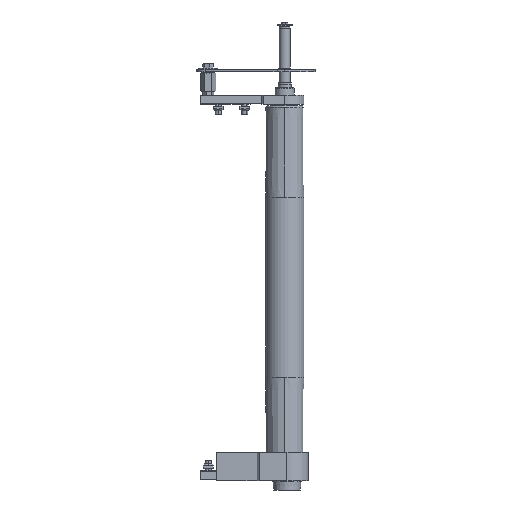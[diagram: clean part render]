
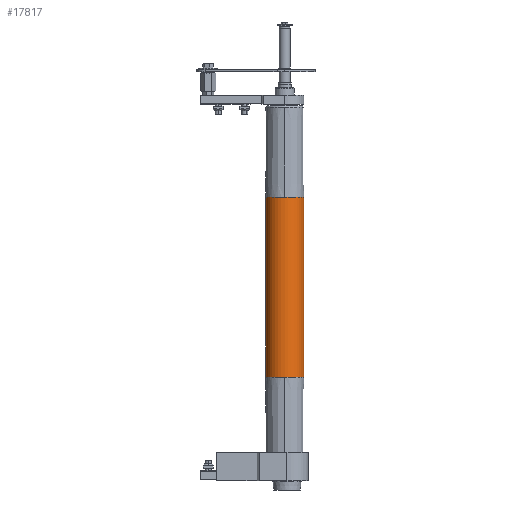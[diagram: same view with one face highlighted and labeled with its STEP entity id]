
A CAD part, front view. The second image highlights one B-rep face of the part: STEP entity #17817.
In plain terms, the highlighted cylindrical face has radius 25 mm (diameter 50 mm), a partial arc.
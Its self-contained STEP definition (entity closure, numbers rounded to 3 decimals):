
#347 = CARTESIAN_POINT ( 'NONE',  ( -117.5, 0., 25. ) ) ;
#635 = VERTEX_POINT ( 'NONE', #22756 ) ;
#726 = VERTEX_POINT ( 'NONE', #13256 ) ;
#984 = ORIENTED_EDGE ( 'NONE', *, *, #10598, .F. ) ;
#1115 = CIRCLE ( 'NONE', #20188, 25. ) ;
#1228 = EDGE_CURVE ( 'NONE', #17776, #726, #1115, .T. ) ;
#1923 = AXIS2_PLACEMENT_3D ( 'NONE', #15970, #21885, #21425 ) ;
#2183 = CIRCLE ( 'NONE', #1923, 25. ) ;
#2327 = CARTESIAN_POINT ( 'NONE',  ( -117.5, 25., 0. ) ) ;
#2522 = EDGE_CURVE ( 'NONE', #2849, #635, #3251, .T. ) ;
#2849 = VERTEX_POINT ( 'NONE', #11568 ) ;
#2858 = FACE_OUTER_BOUND ( 'NONE', #11553, .T. ) ;
#3251 = LINE ( 'NONE', #5125, #11057 ) ;
#3253 = DIRECTION ( 'NONE',  ( -1., 0., 0. ) ) ;
#3321 = AXIS2_PLACEMENT_3D ( 'NONE', #20068, #12929, #13012 ) ;
#4414 = CIRCLE ( 'NONE', #17225, 25. ) ;
#5125 = CARTESIAN_POINT ( 'NONE',  ( 235., 0., -25. ) ) ;
#5516 = DIRECTION ( 'NONE',  ( 0., -1., 0. ) ) ;
#6608 = DIRECTION ( 'NONE',  ( -1., 0., 0. ) ) ;
#7812 = CARTESIAN_POINT ( 'NONE',  ( 117.5, 0., 25. ) ) ;
#8800 = ORIENTED_EDGE ( 'NONE', *, *, #1228, .T. ) ;
#9134 = VECTOR ( 'NONE', #19321, 1000. ) ;
#10598 = EDGE_CURVE ( 'NONE', #12250, #635, #13055, .T. ) ;
#10721 = DIRECTION ( 'NONE',  ( -1., 0., 0. ) ) ;
#11057 = VECTOR ( 'NONE', #3253, 1000. ) ;
#11553 = EDGE_LOOP ( 'NONE', ( #8800, #13594, #14166, #984, #18972, #12028 ) ) ;
#11568 = CARTESIAN_POINT ( 'NONE',  ( 117.5, 0., -25. ) ) ;
#12028 = ORIENTED_EDGE ( 'NONE', *, *, #22272, .F. ) ;
#12250 = VERTEX_POINT ( 'NONE', #2327 ) ;
#12929 = DIRECTION ( 'NONE',  ( -1., 0., 0. ) ) ;
#13012 = DIRECTION ( 'NONE',  ( 0., 0., 1. ) ) ;
#13055 = CIRCLE ( 'NONE', #14557, 25. ) ;
#13256 = CARTESIAN_POINT ( 'NONE',  ( 117.5, 25., 0. ) ) ;
#13366 = DIRECTION ( 'NONE',  ( -1., 0., 0. ) ) ;
#13594 = ORIENTED_EDGE ( 'NONE', *, *, #20739, .T. ) ;
#13820 = CARTESIAN_POINT ( 'NONE',  ( 235., 0., 25. ) ) ;
#13920 = CARTESIAN_POINT ( 'NONE',  ( 117.5, 0., 0. ) ) ;
#14166 = ORIENTED_EDGE ( 'NONE', *, *, #2522, .T. ) ;
#14557 = AXIS2_PLACEMENT_3D ( 'NONE', #19888, #10721, #5516 ) ;
#15970 = CARTESIAN_POINT ( 'NONE',  ( -117.5, 0., 0. ) ) ;
#17081 = CARTESIAN_POINT ( 'NONE',  ( 117.5, 0., 0. ) ) ;
#17225 = AXIS2_PLACEMENT_3D ( 'NONE', #13920, #6608, #22617 ) ;
#17776 = VERTEX_POINT ( 'NONE', #7812 ) ;
#17817 = ADVANCED_FACE ( 'NONE', ( #2858 ), #21242, .T. ) ;
#18572 = LINE ( 'NONE', #13820, #9134 ) ;
#18972 = ORIENTED_EDGE ( 'NONE', *, *, #21466, .F. ) ;
#19321 = DIRECTION ( 'NONE',  ( -1., 0., 0. ) ) ;
#19888 = CARTESIAN_POINT ( 'NONE',  ( -117.5, 0., 0. ) ) ;
#20068 = CARTESIAN_POINT ( 'NONE',  ( 235., 0., 0. ) ) ;
#20188 = AXIS2_PLACEMENT_3D ( 'NONE', #17081, #13366, #20660 ) ;
#20372 = VERTEX_POINT ( 'NONE', #347 ) ;
#20660 = DIRECTION ( 'NONE',  ( 0., -1., 0. ) ) ;
#20739 = EDGE_CURVE ( 'NONE', #726, #2849, #4414, .T. ) ;
#21242 = CYLINDRICAL_SURFACE ( 'NONE', #3321, 25. ) ;
#21425 = DIRECTION ( 'NONE',  ( 0., -1., 0. ) ) ;
#21466 = EDGE_CURVE ( 'NONE', #20372, #12250, #2183, .T. ) ;
#21885 = DIRECTION ( 'NONE',  ( -1., 0., 0. ) ) ;
#22272 = EDGE_CURVE ( 'NONE', #17776, #20372, #18572, .T. ) ;
#22617 = DIRECTION ( 'NONE',  ( 0., -1., 0. ) ) ;
#22756 = CARTESIAN_POINT ( 'NONE',  ( -117.5, 0., -25. ) ) ;
